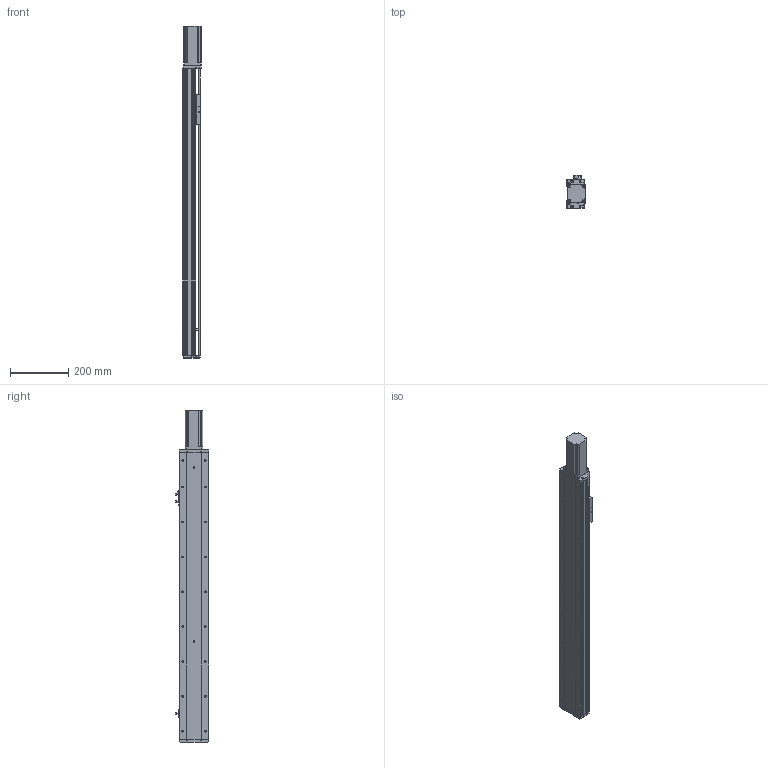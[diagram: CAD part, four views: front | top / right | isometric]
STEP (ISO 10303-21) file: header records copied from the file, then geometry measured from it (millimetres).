
FILE_DESCRIPTION (( 'STEP AP214' ), '1' );
FILE_NAME ('KSD100S-S750-MN-CM.STEP', '2019-08-30T07:39:04', ( '微软用户' ), ( '微软中国' ), 'SwSTEP 2.0', 'SolidWorks 2014', '' );
FILE_SCHEMA (( 'AUTOMOTIVE_DESIGN' ));
Length unit declared in the file: millimetre
Products named in the file (9): 覜茼え100遵圉猾敕; U倰嫖萇EEㄜSX672; 100宽防尘板丝杆750行程不带电机座; 100宽马达安装板不带电机座; 100宽滚珠螺姆安装板半封闭; 100遵傷啣; 100宽底板半封闭750行程丝杆不带电机座; KSD100S-S750-MN-CM; 台达ECMA－C20604AS伺服电机
Assembly tree (10 placements, depth 2):
  KSD100S-S750-MN-CM
    100宽底板半封闭750行程丝杆不带电机座
    100遵傷啣
    100宽滚珠螺姆安装板半封闭
    100宽马达安装板不带电机座
    100宽防尘板丝杆750行程不带电机座
    U倰嫖萇EEㄜSX672  x3
    覜茼え100遵圉猾敕
    台达ECMA－C20604AS伺服电机
Bounding box: 62 x 113.7 x 1142 mm (x, y, z)
Volume: 2392534.8 mm3; surface area: 745822.6 mm2
Topology: 11 solids, 11 shells, 1144 faces, 3246 edges, 2047 vertices
Faces by surface type: cylinder 549, plane 464, cone 131
Entity records: 39872 total; most frequent: CARTESIAN_POINT 8212, DIRECTION 5265, ORIENTED_EDGE 5136, EDGE_CURVE 2568, AXIS2_PLACEMENT_3D 1904, VERTEX_POINT 1671, LINE 1457, VECTOR 1457
